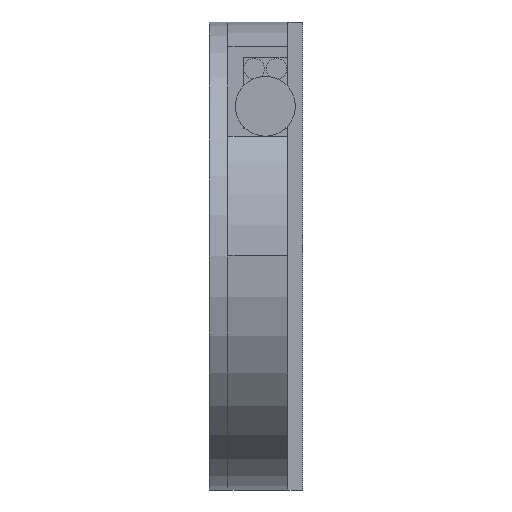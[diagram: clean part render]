
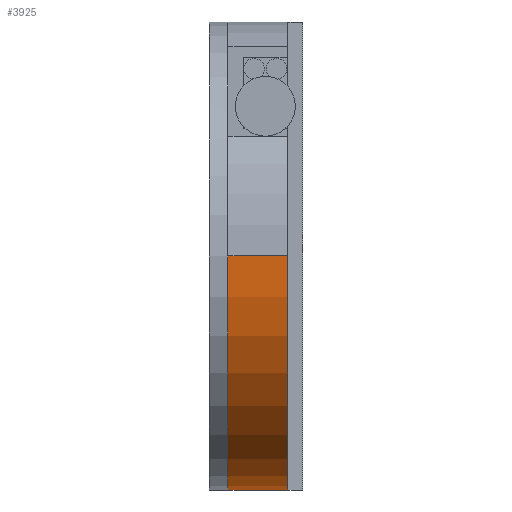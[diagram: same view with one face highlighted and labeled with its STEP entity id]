
A CAD part, left-side view. The second image highlights one B-rep face of the part: STEP entity #3925.
In plain terms, the highlighted cylindrical face has radius 62.5 mm (diameter 125 mm), a partial arc.
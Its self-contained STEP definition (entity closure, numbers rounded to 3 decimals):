
#39 = CARTESIAN_POINT ( 'NONE',  ( -62.5, 20., 0. ) ) ;
#42 = CARTESIAN_POINT ( 'NONE',  ( 0., 19., 0. ) ) ;
#43 = FACE_OUTER_BOUND ( 'NONE', #3926, .T. ) ;
#44 = CARTESIAN_POINT ( 'NONE',  ( 62.482, 15.5, -1.5 ) ) ;
#46 = CARTESIAN_POINT ( 'NONE',  ( 62.482, 15.5, -1.5 ) ) ;
#47 = B_SPLINE_CURVE_WITH_KNOTS ( 'NONE', 3,
 ( #216, #213, #221, #266, #207, #215, #226, #227, #236, #297, #225, #296, #295, #214, #229, #228 ),
 .UNSPECIFIED., .F., .F.,
 ( 4, 2, 2, 2, 2, 2, 2, 4 ),
 ( 0.002, 0.003, 0.003, 0.003, 0.004, 0.004, 0.004, 0.005 ),
 .UNSPECIFIED. ) ;
#49 = B_SPLINE_CURVE_WITH_KNOTS ( 'NONE', 3,
 ( #46, #205, #204, #203, #202, #201, #200, #199, #198, #197, #196, #195, #194, #193 ),
 .UNSPECIFIED., .F., .F.,
 ( 4, 2, 2, 2, 2, 2, 4 ),
 ( 0.005, 0.005, 0.006, 0.006, 0.006, 0.007, 0.007 ),
 .UNSPECIFIED. ) ;
#98 = DIRECTION ( 'NONE',  ( -1., 0., 0. ) ) ;
#99 = DIRECTION ( 'NONE',  ( 0., -1., 0. ) ) ;
#124 = CARTESIAN_POINT ( 'NONE',  ( 62.5, 19., 0. ) ) ;
#125 = LINE ( 'NONE', #124, #174 ) ;
#139 = AXIS2_PLACEMENT_3D ( 'NONE', #42, #99, #98 ) ;
#140 = CYLINDRICAL_SURFACE ( 'NONE', #139, 62.5 ) ;
#141 = CARTESIAN_POINT ( 'NONE',  ( 62.5, 20., 0. ) ) ;
#172 = CARTESIAN_POINT ( 'NONE',  ( 62.5, 17., 0. ) ) ;
#173 = DIRECTION ( 'NONE',  ( 0., -1., 0. ) ) ;
#174 = VECTOR ( 'NONE', #173, 1000. ) ;
#193 = CARTESIAN_POINT ( 'NONE',  ( 62.5, 17., 0. ) ) ;
#194 = CARTESIAN_POINT ( 'NONE',  ( 62.5, 17., -0.099 ) ) ;
#195 = CARTESIAN_POINT ( 'NONE',  ( 62.5, 16.99, -0.196 ) ) ;
#196 = CARTESIAN_POINT ( 'NONE',  ( 62.499, 16.952, -0.388 ) ) ;
#197 = CARTESIAN_POINT ( 'NONE',  ( 62.498, 16.923, -0.484 ) ) ;
#198 = CARTESIAN_POINT ( 'NONE',  ( 62.497, 16.848, -0.665 ) ) ;
#199 = CARTESIAN_POINT ( 'NONE',  ( 62.496, 16.802, -0.751 ) ) ;
#200 = CARTESIAN_POINT ( 'NONE',  ( 62.493, 16.693, -0.915 ) ) ;
#201 = CARTESIAN_POINT ( 'NONE',  ( 62.492, 16.63, -0.992 ) ) ;
#202 = CARTESIAN_POINT ( 'NONE',  ( 62.489, 16.422, -1.199 ) ) ;
#203 = CARTESIAN_POINT ( 'NONE',  ( 62.486, 16.254, -1.311 ) ) ;
#204 = CARTESIAN_POINT ( 'NONE',  ( 62.483, 15.893, -1.461 ) ) ;
#205 = CARTESIAN_POINT ( 'NONE',  ( 62.482, 15.696, -1.5 ) ) ;
#207 = CARTESIAN_POINT ( 'NONE',  ( 62.498, 14.076, -0.483 ) ) ;
#213 = CARTESIAN_POINT ( 'NONE',  ( 62.5, 14., -0.098 ) ) ;
#214 = CARTESIAN_POINT ( 'NONE',  ( 62.482, 15.303, -1.49 ) ) ;
#215 = CARTESIAN_POINT ( 'NONE',  ( 62.497, 14.152, -0.665 ) ) ;
#216 = CARTESIAN_POINT ( 'NONE',  ( 62.5, 14., 0. ) ) ;
#221 = CARTESIAN_POINT ( 'NONE',  ( 62.5, 14.01, -0.197 ) ) ;
#225 = CARTESIAN_POINT ( 'NONE',  ( 62.486, 14.744, -1.311 ) ) ;
#226 = CARTESIAN_POINT ( 'NONE',  ( 62.496, 14.199, -0.752 ) ) ;
#227 = CARTESIAN_POINT ( 'NONE',  ( 62.493, 14.307, -0.915 ) ) ;
#228 = CARTESIAN_POINT ( 'NONE',  ( 62.482, 15.5, -1.5 ) ) ;
#229 = CARTESIAN_POINT ( 'NONE',  ( 62.482, 15.402, -1.5 ) ) ;
#230 = CARTESIAN_POINT ( 'NONE',  ( 0., 20., 0. ) ) ;
#231 = AXIS2_PLACEMENT_3D ( 'NONE', #230, #240, #239 ) ;
#232 = CIRCLE ( 'NONE', #231, 62.5 ) ;
#236 = CARTESIAN_POINT ( 'NONE',  ( 62.492, 14.369, -0.991 ) ) ;
#239 = DIRECTION ( 'NONE',  ( 1., 0., 0. ) ) ;
#240 = DIRECTION ( 'NONE',  ( 0., 1., 0. ) ) ;
#266 = CARTESIAN_POINT ( 'NONE',  ( 62.499, 14.048, -0.39 ) ) ;
#267 = DIRECTION ( 'NONE',  ( 0., 1., 0. ) ) ;
#268 = CARTESIAN_POINT ( 'NONE',  ( 0., 4., 0. ) ) ;
#269 = AXIS2_PLACEMENT_3D ( 'NONE', #268, #267, #289 ) ;
#270 = CIRCLE ( 'NONE', #269, 62.5 ) ;
#271 = CARTESIAN_POINT ( 'NONE',  ( 62.5, 14., 0. ) ) ;
#282 = DIRECTION ( 'NONE',  ( 1., 0., 0. ) ) ;
#283 = DIRECTION ( 'NONE',  ( 0., 1., 0. ) ) ;
#284 = CARTESIAN_POINT ( 'NONE',  ( 0., 4., 0. ) ) ;
#285 = AXIS2_PLACEMENT_3D ( 'NONE', #284, #283, #282 ) ;
#286 = CIRCLE ( 'NONE', #285, 62.5 ) ;
#289 = DIRECTION ( 'NONE',  ( 1., 0., 0. ) ) ;
#295 = CARTESIAN_POINT ( 'NONE',  ( 62.483, 15.111, -1.452 ) ) ;
#296 = CARTESIAN_POINT ( 'NONE',  ( 62.484, 15.017, -1.424 ) ) ;
#297 = CARTESIAN_POINT ( 'NONE',  ( 62.489, 14.579, -1.201 ) ) ;
#431 = DIRECTION ( 'NONE',  ( 0., -1., 0. ) ) ;
#432 = VECTOR ( 'NONE', #431, 1000. ) ;
#433 = CARTESIAN_POINT ( 'NONE',  ( -62.5, 19., 0. ) ) ;
#434 = LINE ( 'NONE', #433, #432 ) ;
#444 = DIRECTION ( 'NONE',  ( 0., -1., 0. ) ) ;
#445 = VECTOR ( 'NONE', #444, 1000. ) ;
#446 = CARTESIAN_POINT ( 'NONE',  ( 62.5, 19., 0. ) ) ;
#447 = LINE ( 'NONE', #446, #445 ) ;
#453 = CARTESIAN_POINT ( 'NONE',  ( 62.5, 4., 0. ) ) ;
#455 = CARTESIAN_POINT ( 'NONE',  ( 0., 4., -62.5 ) ) ;
#456 = CARTESIAN_POINT ( 'NONE',  ( -62.5, 4., 0. ) ) ;
#3916 = VERTEX_POINT ( 'NONE', #39 ) ;
#3921 = ORIENTED_EDGE ( 'NONE', *, *, #3922, .T. ) ;
#3922 = EDGE_CURVE ( 'NONE', #3927, #3923, #125, .T. ) ;
#3923 = VERTEX_POINT ( 'NONE', #172 ) ;
#3924 = VERTEX_POINT ( 'NONE', #44 ) ;
#3925 = ADVANCED_FACE ( 'NONE', ( #43 ), #140, .T. ) ;
#3926 = EDGE_LOOP ( 'NONE', ( #4025, #3921, #4018, #4020, #4046, #4063, #4065, #4126 ) ) ;
#3927 = VERTEX_POINT ( 'NONE', #141 ) ;
#4018 = ORIENTED_EDGE ( 'NONE', *, *, #4019, .F. ) ;
#4019 = EDGE_CURVE ( 'NONE', #3924, #3923, #49, .T. ) ;
#4020 = ORIENTED_EDGE ( 'NONE', *, *, #4021, .F. ) ;
#4021 = EDGE_CURVE ( 'NONE', #4022, #3924, #47, .T. ) ;
#4022 = VERTEX_POINT ( 'NONE', #271 ) ;
#4025 = ORIENTED_EDGE ( 'NONE', *, *, #4026, .F. ) ;
#4026 = EDGE_CURVE ( 'NONE', #3927, #3916, #232, .T. ) ;
#4043 = EDGE_CURVE ( 'NONE', #4122, #4120, #270, .T. ) ;
#4045 = EDGE_CURVE ( 'NONE', #4120, #4101, #286, .T. ) ;
#4046 = ORIENTED_EDGE ( 'NONE', *, *, #4116, .T. ) ;
#4063 = ORIENTED_EDGE ( 'NONE', *, *, #4043, .T. ) ;
#4065 = ORIENTED_EDGE ( 'NONE', *, *, #4045, .T. ) ;
#4101 = VERTEX_POINT ( 'NONE', #456 ) ;
#4116 = EDGE_CURVE ( 'NONE', #4022, #4122, #447, .T. ) ;
#4120 = VERTEX_POINT ( 'NONE', #455 ) ;
#4122 = VERTEX_POINT ( 'NONE', #453 ) ;
#4125 = EDGE_CURVE ( 'NONE', #3916, #4101, #434, .T. ) ;
#4126 = ORIENTED_EDGE ( 'NONE', *, *, #4125, .F. ) ;
